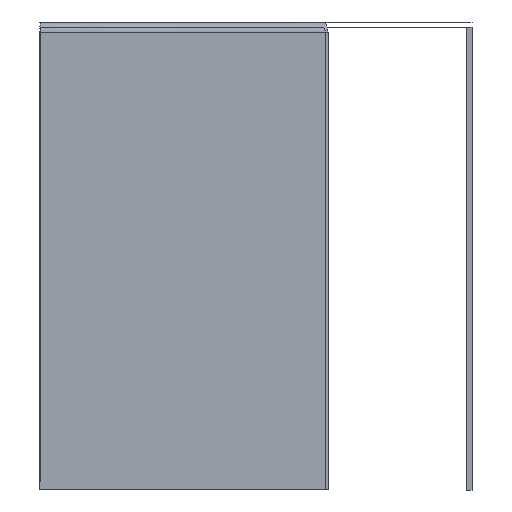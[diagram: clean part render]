
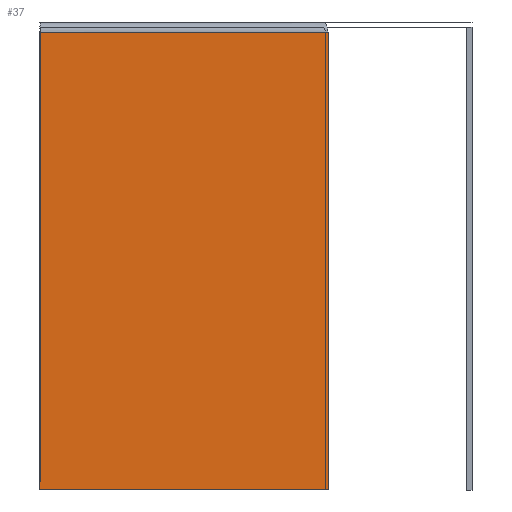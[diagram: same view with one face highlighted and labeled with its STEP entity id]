
A CAD part, left-side view. The second image highlights one B-rep face of the part: STEP entity #37.
In plain terms, the highlighted planar face has unit normal (-1, 0, 0).
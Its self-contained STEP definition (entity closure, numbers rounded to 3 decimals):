
#37=ADVANCED_FACE('',(#71),#526,.T.);
#71=FACE_OUTER_BOUND('',#107,.T.);
#107=EDGE_LOOP('',(#168,#169,#170,#171));
#168=ORIENTED_EDGE('',*,*,#300,.T.);
#169=ORIENTED_EDGE('',*,*,#304,.T.);
#170=ORIENTED_EDGE('',*,*,#317,.F.);
#171=ORIENTED_EDGE('',*,*,#307,.F.);
#300=EDGE_CURVE('',#480,#478,#441,.T.);
#304=EDGE_CURVE('',#478,#479,#442,.T.);
#307=EDGE_CURVE('',#480,#481,#382,.T.);
#317=EDGE_CURVE('',#481,#479,#390,.T.);
#382=B_SPLINE_CURVE_WITH_KNOTS('',1,(#828,#829),.UNSPECIFIED.,.F.,.F.,(2,
2),(309.,389.),.UNSPECIFIED.);
#390=B_SPLINE_CURVE_WITH_KNOTS('',1,(#865,#866),.UNSPECIFIED.,.F.,.F.,(2,
2),(0.,127.),.UNSPECIFIED.);
#441=(
BOUNDED_CURVE()
B_SPLINE_CURVE(1,(#805,#806),.UNSPECIFIED.,.F.,.F.)
B_SPLINE_CURVE_WITH_KNOTS((2,2),(0.,127.),.UNSPECIFIED.)
CURVE()
GEOMETRIC_REPRESENTATION_ITEM()
RATIONAL_B_SPLINE_CURVE((1.,1.))
REPRESENTATION_ITEM('')
);
#442=(
BOUNDED_CURVE()
B_SPLINE_CURVE(1,(#813,#814),.UNSPECIFIED.,.F.,.F.)
B_SPLINE_CURVE_WITH_KNOTS((2,2),(309.,389.),.UNSPECIFIED.)
CURVE()
GEOMETRIC_REPRESENTATION_ITEM()
RATIONAL_B_SPLINE_CURVE((1.,1.))
REPRESENTATION_ITEM('')
);
#478=VERTEX_POINT('',#751);
#479=VERTEX_POINT('',#752);
#480=VERTEX_POINT('',#753);
#481=VERTEX_POINT('',#754);
#526=PLANE('',#650);
#650=AXIS2_PLACEMENT_3D('',#728,#688,$);
#688=DIRECTION('',(-1.,0.,0.));
#728=CARTESIAN_POINT('',(-9208.097,1990.598,127.));
#751=CARTESIAN_POINT('',(-9208.097,2299.598,127.));
#752=CARTESIAN_POINT('',(-9208.097,2379.598,127.));
#753=CARTESIAN_POINT('',(-9208.097,2299.598,0.));
#754=CARTESIAN_POINT('',(-9208.097,2379.598,0.));
#805=CARTESIAN_POINT('',(-9208.097,2299.598,0.));
#806=CARTESIAN_POINT('',(-9208.097,2299.598,127.));
#813=CARTESIAN_POINT('',(-9208.097,2299.598,127.));
#814=CARTESIAN_POINT('',(-9208.097,2379.598,127.));
#828=CARTESIAN_POINT('',(-9208.097,2299.598,0.));
#829=CARTESIAN_POINT('',(-9208.097,2379.598,0.));
#865=CARTESIAN_POINT('',(-9208.097,2379.598,0.));
#866=CARTESIAN_POINT('',(-9208.097,2379.598,127.));
